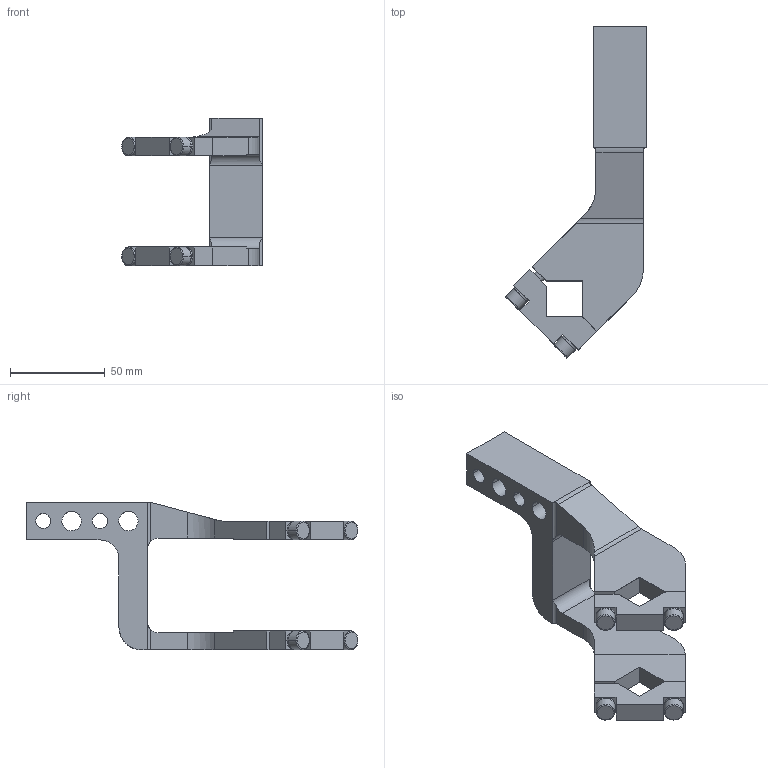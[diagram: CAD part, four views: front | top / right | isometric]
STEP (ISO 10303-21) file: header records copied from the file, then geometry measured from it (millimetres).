
FILE_DESCRIPTION(('CATIA V5 STEP Exchange'),'2;1');
FILE_NAME('E:\clampact\CLAMPACT\clampact\catalog\Clampact Arm\Arm 3D\Clampact Arm\arm_K50_15_A92_Clampact.stp','2022-12-07T04:35:58+00:00',('none'),('none'),'CATIA Version 5 Release 19 SP 6 (IN-10)','CATIA V5 STEP AP203','none');
FILE_SCHEMA(('CONFIG_CONTROL_DESIGN'));
Length unit declared in the file: millimetre
Products named in the file (1): K50_15_A92_Clampact_柯莱普
Bounding box: 74.05 x 175.05 x 78 mm (x, y, z)
Volume: 129748.4 mm3; surface area: 38187.9 mm2
Topology: 1 solids, 5 shells, 168 faces, 433 edges, 275 vertices
Faces by surface type: plane 82, cylinder 54, cone 20, torus 12
Entity records: 5750 total; most frequent: CARTESIAN_POINT 1824, ORIENTED_EDGE 850, DIRECTION 675, EDGE_CURVE 425, VERTEX_POINT 275, AXIS2_PLACEMENT_3D 260, VECTOR 248, LINE 248
